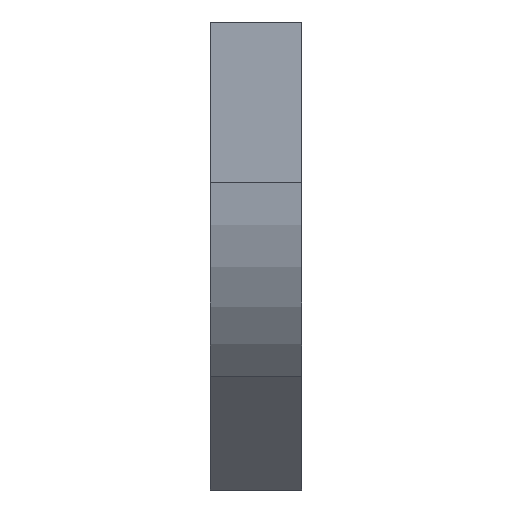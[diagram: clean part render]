
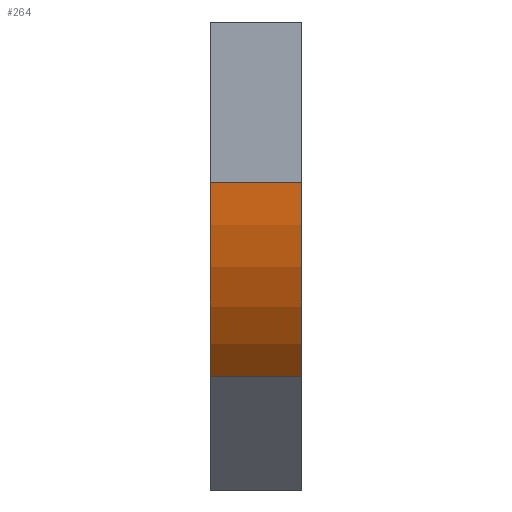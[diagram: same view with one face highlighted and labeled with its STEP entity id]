
A CAD part, left-side view. The second image highlights one B-rep face of the part: STEP entity #264.
In plain terms, the highlighted cylindrical face has radius 300 mm (diameter 600 mm), a partial arc.
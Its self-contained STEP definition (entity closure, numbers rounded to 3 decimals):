
#41 = CARTESIAN_POINT ( 'NONE',  ( 300., 100., -174.264 ) ) ;
#100 = EDGE_CURVE ( 'NONE', #412, #1396, #1604, .T. ) ;
#130 = CARTESIAN_POINT ( 'NONE',  ( 87.868, 0., -386.396 ) ) ;
#133 = ORIENTED_EDGE ( 'NONE', *, *, #100, .T. ) ;
#228 = CIRCLE ( 'NONE', #313, 300. ) ;
#256 = DIRECTION ( 'NONE',  ( 0., -1., 0. ) ) ;
#264 = ADVANCED_FACE ( 'NONE', ( #1613 ), #357, .T. ) ;
#287 = CARTESIAN_POINT ( 'NONE',  ( 87.868, 0., -386.396 ) ) ;
#313 = AXIS2_PLACEMENT_3D ( 'NONE', #41, #1315, #1745 ) ;
#325 = DIRECTION ( 'NONE',  ( 0., 0., -1. ) ) ;
#333 = VERTEX_POINT ( 'NONE', #1272 ) ;
#357 = CYLINDRICAL_SURFACE ( 'NONE', #1796, 300. ) ;
#367 = AXIS2_PLACEMENT_3D ( 'NONE', #529, #965, #952 ) ;
#412 = VERTEX_POINT ( 'NONE', #1149 ) ;
#417 = EDGE_CURVE ( 'NONE', #895, #333, #1139, .T. ) ;
#529 = CARTESIAN_POINT ( 'NONE',  ( 300., 0., -174.264 ) ) ;
#542 = VECTOR ( 'NONE', #609, 1000. ) ;
#576 = CARTESIAN_POINT ( 'NONE',  ( 0., 0., -174.264 ) ) ;
#609 = DIRECTION ( 'NONE',  ( 0., -1., 0. ) ) ;
#751 = EDGE_LOOP ( 'NONE', ( #907, #1104, #1368, #133 ) ) ;
#785 = CARTESIAN_POINT ( 'NONE',  ( 300., 0., -174.264 ) ) ;
#895 = VERTEX_POINT ( 'NONE', #1223 ) ;
#907 = ORIENTED_EDGE ( 'NONE', *, *, #1801, .F. ) ;
#926 = DIRECTION ( 'NONE',  ( 0., -1., 0. ) ) ;
#952 = DIRECTION ( 'NONE',  ( -1., 0., 0. ) ) ;
#965 = DIRECTION ( 'NONE',  ( 0., -1., 0. ) ) ;
#1048 = CIRCLE ( 'NONE', #367, 300. ) ;
#1073 = EDGE_CURVE ( 'NONE', #895, #412, #228, .T. ) ;
#1104 = ORIENTED_EDGE ( 'NONE', *, *, #417, .F. ) ;
#1138 = VECTOR ( 'NONE', #256, 1000. ) ;
#1139 = LINE ( 'NONE', #576, #1138 ) ;
#1149 = CARTESIAN_POINT ( 'NONE',  ( 87.868, 100., -386.396 ) ) ;
#1223 = CARTESIAN_POINT ( 'NONE',  ( 0., 100., -174.264 ) ) ;
#1272 = CARTESIAN_POINT ( 'NONE',  ( 0., 0., -174.264 ) ) ;
#1315 = DIRECTION ( 'NONE',  ( 0., -1., 0. ) ) ;
#1368 = ORIENTED_EDGE ( 'NONE', *, *, #1073, .T. ) ;
#1396 = VERTEX_POINT ( 'NONE', #130 ) ;
#1604 = LINE ( 'NONE', #287, #542 ) ;
#1613 = FACE_OUTER_BOUND ( 'NONE', #751, .T. ) ;
#1745 = DIRECTION ( 'NONE',  ( -1., 0., 0. ) ) ;
#1796 = AXIS2_PLACEMENT_3D ( 'NONE', #785, #926, #325 ) ;
#1801 = EDGE_CURVE ( 'NONE', #333, #1396, #1048, .T. ) ;
